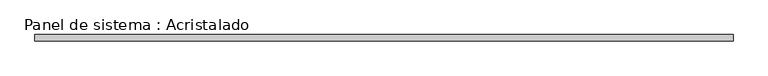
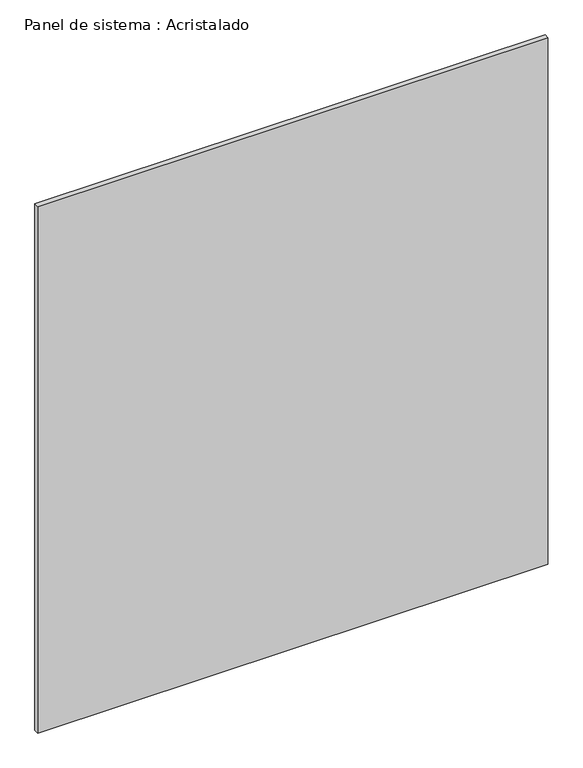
"""IFC4 building model written with IfcOpenShell, lengths in millimetres: plate geometry, Panel de sistema : Acristalado."""

from ifc_helpers import new_model, si_unit, origin, origin_with_axes, place, context, project, spatial, polyline, outline, extrude, source, transform, mapped, element, save


def panel_de_sistema_acristalado_85549cb2(model_context):
    return source(origin(), model_context, "Body", "SweptSolid", [
        extrude(outline(polyline([(1100.0, -10.0), (-1100.0, -10.0), (-1100.0, 10.0), (1100.0, 10.0), (1100.0, -10.0)])), origin_with_axes(), (0.0, 0.0, 1.0), 2400.0),
    ])


if __name__ == "__main__":
    model = new_model("IFC4")
    model_context = context("Model", 3, world=origin())
    ifc_project = project(units=[si_unit("LENGTHUNIT", "METRE", prefix="MILLI")], contexts=[model_context])
    site = spatial("IfcSite", under=ifc_project)
    building = spatial("IfcBuilding", under=site)
    placement = place(None, origin())
    panel_de_sistema_acristalado_shape = panel_de_sistema_acristalado_85549cb2(model_context)
    element("IfcPlate", 1, ObjectType="Panel de sistema : Acristalado", at=placement, inside=building, context=model_context, shape_type="MappedRepresentation", body=[
        mapped(panel_de_sistema_acristalado_shape, transform((0.0, 0.0, 0.0), x_axis=(1.0, 0.0, 0.0), y_axis=(0.0, 1.0, 0.0), z_axis=(0.0, 0.0, 1.0))),
    ])
    save(model, "model.ifc")
